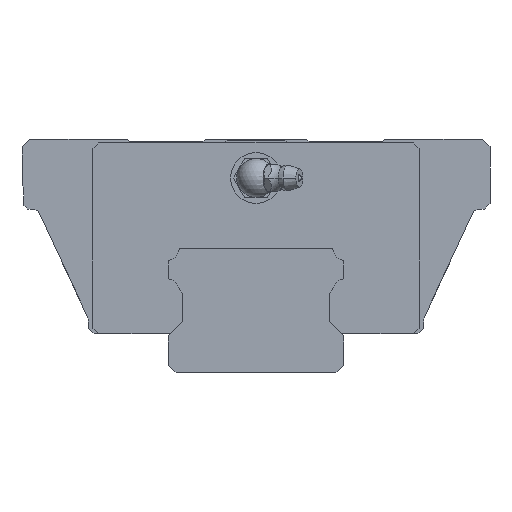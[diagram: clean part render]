
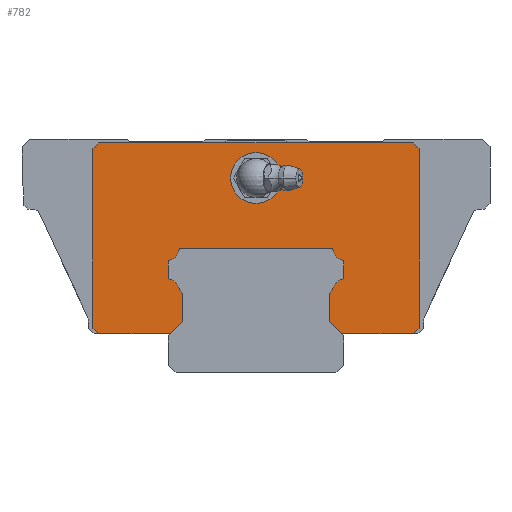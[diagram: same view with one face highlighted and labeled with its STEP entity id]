
A CAD part, front view. The second image highlights one B-rep face of the part: STEP entity #782.
In plain terms, the highlighted planar face has unit normal (0, -1, 0).
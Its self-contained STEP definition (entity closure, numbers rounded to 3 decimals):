
#426=FACE_BOUND('',#1327,.T.);
#427=FACE_BOUND('',#1328,.T.);
#628=CIRCLE('',#4329,6.5);
#629=CIRCLE('',#4330,3.2);
#630=CIRCLE('',#4331,0.5);
#631=CIRCLE('',#4332,0.5);
#632=CIRCLE('',#4333,3.2);
#633=CIRCLE('',#4334,0.5);
#634=CIRCLE('',#4335,0.5);
#635=CIRCLE('',#4336,3.2);
#636=CIRCLE('',#4337,0.5);
#637=CIRCLE('',#4338,0.5);
#638=CIRCLE('',#4339,3.2);
#782=ADVANCED_FACE('',(#426,#427),#992,.T.);
#992=PLANE('',#4340);
#1327=EDGE_LOOP('',(#1783));
#1328=EDGE_LOOP('',(#1784,#1785,#1786,#1787,#1788,#1789,#1790,#1791,#1792,
#1793,#1794,#1795,#1796,#1797,#1798,#1799,#1800,#1801,#1802,#1803,#1804,
#1805,#1806,#1807,#1808,#1809,#1810,#1811));
#1783=ORIENTED_EDGE('',*,*,#3162,.F.);
#1784=ORIENTED_EDGE('',*,*,#3163,.T.);
#1785=ORIENTED_EDGE('',*,*,#3164,.T.);
#1786=ORIENTED_EDGE('',*,*,#3165,.T.);
#1787=ORIENTED_EDGE('',*,*,#3166,.T.);
#1788=ORIENTED_EDGE('',*,*,#3167,.T.);
#1789=ORIENTED_EDGE('',*,*,#3168,.T.);
#1790=ORIENTED_EDGE('',*,*,#3169,.T.);
#1791=ORIENTED_EDGE('',*,*,#3170,.T.);
#1792=ORIENTED_EDGE('',*,*,#3171,.T.);
#1793=ORIENTED_EDGE('',*,*,#3172,.T.);
#1794=ORIENTED_EDGE('',*,*,#3173,.T.);
#1795=ORIENTED_EDGE('',*,*,#3174,.T.);
#1796=ORIENTED_EDGE('',*,*,#3175,.T.);
#1797=ORIENTED_EDGE('',*,*,#3176,.T.);
#1798=ORIENTED_EDGE('',*,*,#3177,.T.);
#1799=ORIENTED_EDGE('',*,*,#3178,.T.);
#1800=ORIENTED_EDGE('',*,*,#3179,.T.);
#1801=ORIENTED_EDGE('',*,*,#3180,.T.);
#1802=ORIENTED_EDGE('',*,*,#3181,.T.);
#1803=ORIENTED_EDGE('',*,*,#3182,.T.);
#1804=ORIENTED_EDGE('',*,*,#3183,.T.);
#1805=ORIENTED_EDGE('',*,*,#3184,.T.);
#1806=ORIENTED_EDGE('',*,*,#3185,.T.);
#1807=ORIENTED_EDGE('',*,*,#3186,.T.);
#1808=ORIENTED_EDGE('',*,*,#3187,.T.);
#1809=ORIENTED_EDGE('',*,*,#3188,.T.);
#1810=ORIENTED_EDGE('',*,*,#3189,.T.);
#1811=ORIENTED_EDGE('',*,*,#3190,.T.);
#2761=VERTEX_POINT('',#6058);
#2762=VERTEX_POINT('',#6060);
#2763=VERTEX_POINT('',#6061);
#2764=VERTEX_POINT('',#6063);
#2765=VERTEX_POINT('',#6065);
#2766=VERTEX_POINT('',#6067);
#2767=VERTEX_POINT('',#6069);
#2768=VERTEX_POINT('',#6071);
#2769=VERTEX_POINT('',#6073);
#2770=VERTEX_POINT('',#6075);
#2771=VERTEX_POINT('',#6077);
#2772=VERTEX_POINT('',#6079);
#2773=VERTEX_POINT('',#6081);
#2774=VERTEX_POINT('',#6083);
#2775=VERTEX_POINT('',#6085);
#2776=VERTEX_POINT('',#6087);
#2777=VERTEX_POINT('',#6089);
#2778=VERTEX_POINT('',#6091);
#2779=VERTEX_POINT('',#6093);
#2780=VERTEX_POINT('',#6095);
#2781=VERTEX_POINT('',#6097);
#2782=VERTEX_POINT('',#6099);
#2783=VERTEX_POINT('',#6101);
#2784=VERTEX_POINT('',#6103);
#2785=VERTEX_POINT('',#6105);
#2786=VERTEX_POINT('',#6107);
#2787=VERTEX_POINT('',#6109);
#2788=VERTEX_POINT('',#6111);
#2789=VERTEX_POINT('',#6113);
#3162=EDGE_CURVE('',#2761,#2761,#628,.T.);
#3163=EDGE_CURVE('',#2762,#2763,#3669,.T.);
#3164=EDGE_CURVE('',#2763,#2764,#3670,.T.);
#3165=EDGE_CURVE('',#2764,#2765,#3671,.T.);
#3166=EDGE_CURVE('',#2765,#2766,#3672,.T.);
#3167=EDGE_CURVE('',#2766,#2767,#3673,.T.);
#3168=EDGE_CURVE('',#2767,#2768,#3674,.T.);
#3169=EDGE_CURVE('',#2768,#2769,#3675,.T.);
#3170=EDGE_CURVE('',#2769,#2770,#3676,.T.);
#3171=EDGE_CURVE('',#2770,#2771,#3677,.T.);
#3172=EDGE_CURVE('',#2771,#2772,#3678,.T.);
#3173=EDGE_CURVE('',#2772,#2773,#3679,.T.);
#3174=EDGE_CURVE('',#2773,#2774,#3680,.T.);
#3175=EDGE_CURVE('',#2774,#2775,#3681,.T.);
#3176=EDGE_CURVE('',#2775,#2776,#3682,.T.);
#3177=EDGE_CURVE('',#2776,#2777,#629,.T.);
#3178=EDGE_CURVE('',#2777,#2778,#630,.T.);
#3179=EDGE_CURVE('',#2778,#2779,#3683,.T.);
#3180=EDGE_CURVE('',#2779,#2780,#631,.T.);
#3181=EDGE_CURVE('',#2780,#2781,#632,.T.);
#3182=EDGE_CURVE('',#2781,#2782,#633,.T.);
#3183=EDGE_CURVE('',#2782,#2783,#3684,.T.);
#3184=EDGE_CURVE('',#2783,#2784,#634,.T.);
#3185=EDGE_CURVE('',#2784,#2785,#635,.T.);
#3186=EDGE_CURVE('',#2785,#2786,#636,.T.);
#3187=EDGE_CURVE('',#2786,#2787,#3685,.T.);
#3188=EDGE_CURVE('',#2787,#2788,#637,.T.);
#3189=EDGE_CURVE('',#2788,#2789,#638,.T.);
#3190=EDGE_CURVE('',#2789,#2762,#3686,.T.);
#3669=LINE('',#6059,#4009);
#3670=LINE('',#6062,#4010);
#3671=LINE('',#6064,#4011);
#3672=LINE('',#6066,#4012);
#3673=LINE('',#6068,#4013);
#3674=LINE('',#6070,#4014);
#3675=LINE('',#6072,#4015);
#3676=LINE('',#6074,#4016);
#3677=LINE('',#6076,#4017);
#3678=LINE('',#6078,#4018);
#3679=LINE('',#6080,#4019);
#3680=LINE('',#6082,#4020);
#3681=LINE('',#6084,#4021);
#3682=LINE('',#6086,#4022);
#3683=LINE('',#6092,#4023);
#3684=LINE('',#6100,#4024);
#3685=LINE('',#6108,#4025);
#3686=LINE('',#6114,#4026);
#4009=VECTOR('',#4895,1.);
#4010=VECTOR('',#4896,1.);
#4011=VECTOR('',#4897,1.);
#4012=VECTOR('',#4898,1.);
#4013=VECTOR('',#4899,1.);
#4014=VECTOR('',#4900,1.);
#4015=VECTOR('',#4901,1.);
#4016=VECTOR('',#4902,1.);
#4017=VECTOR('',#4903,1.);
#4018=VECTOR('',#4904,1.);
#4019=VECTOR('',#4905,1.);
#4020=VECTOR('',#4906,1.);
#4021=VECTOR('',#4907,1.);
#4022=VECTOR('',#4908,1.);
#4023=VECTOR('',#4913,1.);
#4024=VECTOR('',#4920,1.);
#4025=VECTOR('',#4927,1.);
#4026=VECTOR('',#4932,1.);
#4329=AXIS2_PLACEMENT_3D('',#6057,#4893,#4894);
#4330=AXIS2_PLACEMENT_3D('',#6088,#4909,#4910);
#4331=AXIS2_PLACEMENT_3D('',#6090,#4911,#4912);
#4332=AXIS2_PLACEMENT_3D('',#6094,#4914,#4915);
#4333=AXIS2_PLACEMENT_3D('',#6096,#4916,#4917);
#4334=AXIS2_PLACEMENT_3D('',#6098,#4918,#4919);
#4335=AXIS2_PLACEMENT_3D('',#6102,#4921,#4922);
#4336=AXIS2_PLACEMENT_3D('',#6104,#4923,#4924);
#4337=AXIS2_PLACEMENT_3D('',#6106,#4925,#4926);
#4338=AXIS2_PLACEMENT_3D('',#6110,#4928,#4929);
#4339=AXIS2_PLACEMENT_3D('',#6112,#4930,#4931);
#4340=AXIS2_PLACEMENT_3D('',#6115,#4933,#4934);
#4893=DIRECTION('',(0.,-1.,0.));
#4894=DIRECTION('',(1.,0.,0.));
#4895=DIRECTION('',(0.,0.,-1.));
#4896=DIRECTION('',(0.707,0.,-0.707));
#4897=DIRECTION('',(1.,0.,0.));
#4898=DIRECTION('',(0.707,0.,0.707));
#4899=DIRECTION('',(0.,0.,1.));
#4900=DIRECTION('',(-0.707,0.,0.707));
#4901=DIRECTION('',(-1.,0.,0.));
#4902=DIRECTION('',(-0.707,0.,-0.707));
#4903=DIRECTION('',(0.,0.,-1.));
#4904=DIRECTION('',(0.707,0.,-0.707));
#4905=DIRECTION('',(1.,0.,0.));
#4906=DIRECTION('',(0.707,0.,0.707));
#4907=DIRECTION('',(0.,0.,1.));
#4908=DIRECTION('',(-0.707,0.,0.707));
#4909=DIRECTION('',(0.,-1.,0.));
#4910=DIRECTION('',(0.,0.,-1.));
#4911=DIRECTION('',(0.,1.,0.));
#4912=DIRECTION('',(0.,0.,-1.));
#4913=DIRECTION('',(0.,0.,1.));
#4914=DIRECTION('',(0.,1.,0.));
#4915=DIRECTION('',(0.,0.,-1.));
#4916=DIRECTION('',(0.,-1.,0.));
#4917=DIRECTION('',(0.,0.,-1.));
#4918=DIRECTION('',(0.,1.,0.));
#4919=DIRECTION('',(0.,0.,-1.));
#4920=DIRECTION('',(1.,0.,0.));
#4921=DIRECTION('',(0.,1.,0.));
#4922=DIRECTION('',(0.,0.,-1.));
#4923=DIRECTION('',(0.,-1.,0.));
#4924=DIRECTION('',(0.,0.,-1.));
#4925=DIRECTION('',(0.,1.,0.));
#4926=DIRECTION('',(0.,0.,-1.));
#4927=DIRECTION('',(0.,0.,-1.));
#4928=DIRECTION('',(0.,1.,0.));
#4929=DIRECTION('',(0.,0.,-1.));
#4930=DIRECTION('',(0.,-1.,0.));
#4931=DIRECTION('',(0.,0.,-1.));
#4932=DIRECTION('',(-0.707,0.,-0.707));
#4933=DIRECTION('',(0.,-1.,0.));
#4934=DIRECTION('',(0.,0.,-1.));
#6057=CARTESIAN_POINT('',(0.,-34.25,50.));
#6058=CARTESIAN_POINT('',(6.5,-34.25,50.));
#6059=CARTESIAN_POINT('',(18.75,-34.25,99.3));
#6060=CARTESIAN_POINT('',(18.75,-34.25,20.45));
#6061=CARTESIAN_POINT('',(18.75,-34.25,13.25));
#6062=CARTESIAN_POINT('',(-33.65,-34.25,65.65));
#6063=CARTESIAN_POINT('',(22.,-34.25,10.));
#6064=CARTESIAN_POINT('',(-40.3,-34.25,10.));
#6065=CARTESIAN_POINT('',(40.3,-34.25,10.));
#6066=CARTESIAN_POINT('',(40.3,-34.25,10.));
#6067=CARTESIAN_POINT('',(41.8,-34.25,11.5));
#6068=CARTESIAN_POINT('',(41.8,-34.25,11.5));
#6069=CARTESIAN_POINT('',(41.8,-34.25,57.5));
#6070=CARTESIAN_POINT('',(41.8,-34.25,57.5));
#6071=CARTESIAN_POINT('',(40.3,-34.25,59.));
#6072=CARTESIAN_POINT('',(40.3,-34.25,59.));
#6073=CARTESIAN_POINT('',(-40.3,-34.25,59.));
#6074=CARTESIAN_POINT('',(-40.3,-34.25,59.));
#6075=CARTESIAN_POINT('',(-41.8,-34.25,57.5));
#6076=CARTESIAN_POINT('',(-41.8,-34.25,57.5));
#6077=CARTESIAN_POINT('',(-41.8,-34.25,11.5));
#6078=CARTESIAN_POINT('',(-41.8,-34.25,11.5));
#6079=CARTESIAN_POINT('',(-40.3,-34.25,10.));
#6080=CARTESIAN_POINT('',(-40.3,-34.25,10.));
#6081=CARTESIAN_POINT('',(-22.,-34.25,10.));
#6082=CARTESIAN_POINT('',(33.65,-34.25,65.65));
#6083=CARTESIAN_POINT('',(-18.75,-34.25,13.25));
#6084=CARTESIAN_POINT('',(-18.75,-34.25,99.3));
#6085=CARTESIAN_POINT('',(-18.75,-34.25,20.45));
#6086=CARTESIAN_POINT('',(-48.8,-34.25,50.5));
#6087=CARTESIAN_POINT('',(-19.674,-34.25,21.374));
#6088=CARTESIAN_POINT('',(-22.84,-34.25,20.91));
#6089=CARTESIAN_POINT('',(-22.113,-34.25,24.027));
#6090=CARTESIAN_POINT('',(-22.,-34.25,24.514));
#6091=CARTESIAN_POINT('',(-22.5,-34.25,24.514));
#6092=CARTESIAN_POINT('',(-22.5,-34.25,99.3));
#6093=CARTESIAN_POINT('',(-22.5,-34.25,28.486));
#6094=CARTESIAN_POINT('',(-22.,-34.25,28.486));
#6095=CARTESIAN_POINT('',(-22.113,-34.25,28.973));
#6096=CARTESIAN_POINT('',(-22.84,-34.25,32.09));
#6097=CARTESIAN_POINT('',(-19.681,-34.25,31.58));
#6098=CARTESIAN_POINT('',(-19.187,-34.25,31.5));
#6099=CARTESIAN_POINT('',(-19.187,-34.25,32.));
#6100=CARTESIAN_POINT('',(0.,-34.25,32.));
#6101=CARTESIAN_POINT('',(19.187,-34.25,32.));
#6102=CARTESIAN_POINT('',(19.187,-34.25,31.5));
#6103=CARTESIAN_POINT('',(19.681,-34.25,31.58));
#6104=CARTESIAN_POINT('',(22.84,-34.25,32.09));
#6105=CARTESIAN_POINT('',(22.113,-34.25,28.973));
#6106=CARTESIAN_POINT('',(22.,-34.25,28.486));
#6107=CARTESIAN_POINT('',(22.5,-34.25,28.486));
#6108=CARTESIAN_POINT('',(22.5,-34.25,99.3));
#6109=CARTESIAN_POINT('',(22.5,-34.25,24.514));
#6110=CARTESIAN_POINT('',(22.,-34.25,24.514));
#6111=CARTESIAN_POINT('',(22.113,-34.25,24.027));
#6112=CARTESIAN_POINT('',(22.84,-34.25,20.91));
#6113=CARTESIAN_POINT('',(19.674,-34.25,21.374));
#6114=CARTESIAN_POINT('',(48.8,-34.25,50.5));
#6115=CARTESIAN_POINT('',(0.,-34.25,99.3));
